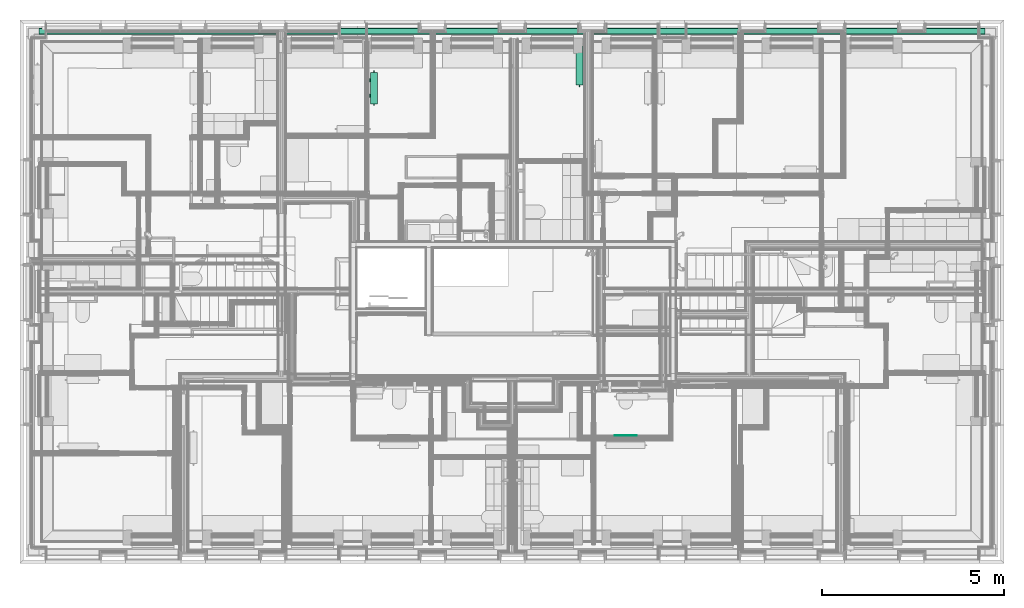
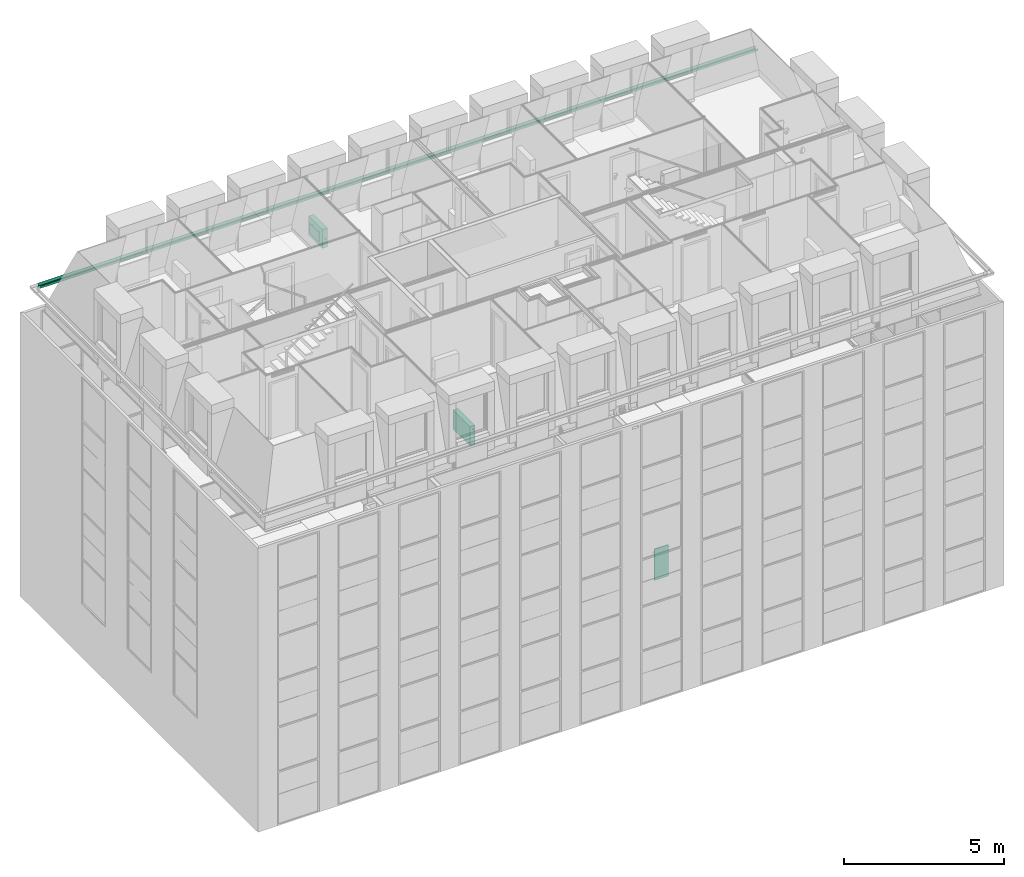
# One storey, part 149 of 169: 3 flow terminals, 1 flow fitting.
"""IFC2X3 building model written with IfcOpenShell, lengths in metres."""

from ifc_helpers import new_model, entity, si_unit, converted_unit, derived_unit, money_unit, direction, frame, origin_with_axes, place, context, subcontext, project, spatial, open_shell, faceted_brep, surface_model, material, type_object, element, save


model = new_model("IFC2X3")

# Units and contexts
model_context = context("Model", 3, precision=1e-05, world=origin_with_axes(), true_north=direction((0.0, 1.0)))
body_context = subcontext(model_context, "Body", "Model", "MODEL_VIEW", scale=1.0)
ifc_project = project(units=[si_unit("LENGTHUNIT", "METRE"), si_unit("AREAUNIT", "SQUARE_METRE"), si_unit("VOLUMEUNIT", "CUBIC_METRE"), si_unit("ABSORBEDDOSEUNIT", "GRAY"), si_unit("AMOUNTOFSUBSTANCEUNIT", "MOLE"), si_unit("DOSEEQUIVALENTUNIT", "SIEVERT"), si_unit("ELECTRICCAPACITANCEUNIT", "FARAD"), si_unit("ELECTRICCHARGEUNIT", "COULOMB"), si_unit("ELECTRICCONDUCTANCEUNIT", "SIEMENS"), si_unit("ELECTRICCURRENTUNIT", "AMPERE"), si_unit("ELECTRICRESISTANCEUNIT", "OHM"), si_unit("ELECTRICVOLTAGEUNIT", "VOLT"), si_unit("ENERGYUNIT", "JOULE"), si_unit("FORCEUNIT", "NEWTON"), si_unit("FREQUENCYUNIT", "HERTZ"), si_unit("ILLUMINANCEUNIT", "LUX"), si_unit("INDUCTANCEUNIT", "HENRY"), si_unit("LUMINOUSFLUXUNIT", "LUMEN"), si_unit("LUMINOUSINTENSITYUNIT", "CANDELA"), si_unit("MAGNETICFLUXDENSITYUNIT", "TESLA"), si_unit("MAGNETICFLUXUNIT", "WEBER"), si_unit("MASSUNIT", "GRAM"), converted_unit("PLANEANGLEUNIT", "degree", entity("IfcReal", 0.0174532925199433), si_unit("PLANEANGLEUNIT", "RADIAN"), dimensions=[0, 0, 0, 0, 0, 0, 0]), si_unit("POWERUNIT", "WATT"), si_unit("PRESSUREUNIT", "PASCAL"), si_unit("RADIOACTIVITYUNIT", "BECQUEREL"), si_unit("SOLIDANGLEUNIT", "STERADIAN"), si_unit("THERMODYNAMICTEMPERATUREUNIT", "KELVIN"), si_unit("TIMEUNIT", "SECOND"), derived_unit("ACCELERATIONUNIT", [(si_unit("LENGTHUNIT", "METRE"), 1), (si_unit("TIMEUNIT", "SECOND"), -2)]), derived_unit("ANGULARVELOCITYUNIT", [(converted_unit("PLANEANGLEUNIT", "degree", entity("IfcReal", 0.0174532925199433), si_unit("PLANEANGLEUNIT", "RADIAN"), dimensions=[0, 0, 0, 0, 0, 0, 0]), 1), (si_unit("TIMEUNIT", "SECOND"), -1)]), derived_unit("CURVATUREUNIT", [(converted_unit("PLANEANGLEUNIT", "degree", entity("IfcReal", 0.0174532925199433), si_unit("PLANEANGLEUNIT", "RADIAN"), dimensions=[0, 0, 0, 0, 0, 0, 0]), 1), (si_unit("LENGTHUNIT", "METRE"), -1)]), derived_unit("DYNAMICVISCOSITYUNIT", [(si_unit("PRESSUREUNIT", "PASCAL"), 1), (si_unit("TIMEUNIT", "SECOND"), 1)]), derived_unit("HEATFLUXDENSITYUNIT", [(si_unit("POWERUNIT", "WATT"), 1), (si_unit("LENGTHUNIT", "METRE"), -2)]), derived_unit("HEATINGVALUEUNIT", [(si_unit("ENERGYUNIT", "JOULE"), 1), (si_unit("MASSUNIT", "GRAM"), -1)]), derived_unit("INTEGERCOUNTRATEUNIT", [(si_unit("TIMEUNIT", "SECOND"), -1)]), derived_unit("IONCONCENTRATIONUNIT", [(si_unit("MASSUNIT", "GRAM"), 1), (si_unit("VOLUMEUNIT", "CUBIC_METRE"), -1)]), derived_unit("ISOTHERMALMOISTURECAPACITYUNIT", [(si_unit("VOLUMEUNIT", "CUBIC_METRE"), 1), (si_unit("MASSUNIT", "GRAM"), -1)]), derived_unit("KINEMATICVISCOSITYUNIT", [(si_unit("AREAUNIT", "SQUARE_METRE"), 1), (si_unit("TIMEUNIT", "SECOND"), -1)]), derived_unit("LINEARFORCEUNIT", [(si_unit("FORCEUNIT", "NEWTON"), 1), (si_unit("LENGTHUNIT", "METRE"), -1)]), derived_unit("LINEARMOMENTUNIT", [(si_unit("FORCEUNIT", "NEWTON"), 1), (si_unit("LENGTHUNIT", "METRE"), -1)]), derived_unit("LINEARSTIFFNESSUNIT", [(si_unit("FORCEUNIT", "NEWTON"), 1), (si_unit("LENGTHUNIT", "METRE"), -1)]), derived_unit("LINEARVELOCITYUNIT", [(si_unit("LENGTHUNIT", "METRE"), 1), (si_unit("TIMEUNIT", "SECOND"), -1)]), derived_unit("LUMINOUSINTENSITYDISTRIBUTIONUNIT", [(si_unit("LUMINOUSINTENSITYUNIT", "CANDELA"), 1), (si_unit("LUMINOUSFLUXUNIT", "LUMEN"), -1)]), derived_unit("MASSDENSITYUNIT", [(si_unit("MASSUNIT", "GRAM"), 1), (si_unit("VOLUMEUNIT", "CUBIC_METRE"), -1)]), derived_unit("MASSFLOWRATEUNIT", [(si_unit("MASSUNIT", "GRAM"), 1), (si_unit("TIMEUNIT", "SECOND"), -1)]), derived_unit("MASSPERLENGTHUNIT", [(si_unit("MASSUNIT", "GRAM"), 1), (si_unit("LENGTHUNIT", "METRE"), -1)]), derived_unit("MODULUSOFELASTICITYUNIT", [(si_unit("FORCEUNIT", "NEWTON"), 1), (si_unit("AREAUNIT", "SQUARE_METRE"), -1)]), derived_unit("MODULUSOFLINEARSUBGRADEREACTIONUNIT", [(si_unit("FORCEUNIT", "NEWTON"), 1), (si_unit("LENGTHUNIT", "METRE"), -2)]), derived_unit("MODULUSOFROTATIONALSUBGRADEREACTIONUNIT", [(si_unit("FORCEUNIT", "NEWTON"), 1), (si_unit("LENGTHUNIT", "METRE"), 1)]), derived_unit("MODULUSOFSUBGRADEREACTIONUNIT", [(si_unit("FORCEUNIT", "NEWTON"), 1), (si_unit("VOLUMEUNIT", "CUBIC_METRE"), -1)]), derived_unit("MOISTUREDIFFUSIVITYUNIT", [(si_unit("VOLUMEUNIT", "CUBIC_METRE"), 1), (si_unit("TIMEUNIT", "SECOND"), -1)]), derived_unit("MOLECULARWEIGHTUNIT", [(si_unit("MASSUNIT", "GRAM"), 1), (si_unit("AMOUNTOFSUBSTANCEUNIT", "MOLE"), -1)]), derived_unit("PLANARFORCEUNIT", [(si_unit("FORCEUNIT", "NEWTON"), 1), (si_unit("LENGTHUNIT", "METRE"), -2)]), derived_unit("ROTATIONALFREQUENCYUNIT", [(si_unit("TIMEUNIT", "SECOND"), -1)]), derived_unit("ROTATIONALMASSUNIT", [(si_unit("MASSUNIT", "GRAM"), 1), (si_unit("LENGTHUNIT", "METRE"), 2)]), derived_unit("ROTATIONALSTIFFNESSUNIT", [(si_unit("FORCEUNIT", "NEWTON"), 1), (si_unit("LENGTHUNIT", "METRE"), 1), (converted_unit("PLANEANGLEUNIT", "degree", entity("IfcReal", 0.0174532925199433), si_unit("PLANEANGLEUNIT", "RADIAN"), dimensions=[0, 0, 0, 0, 0, 0, 0]), -1)]), derived_unit("SECTIONAREAINTEGRALUNIT", [(si_unit("LENGTHUNIT", "METRE"), 5)]), derived_unit("SECTIONMODULUSUNIT", [(si_unit("LENGTHUNIT", "METRE"), 3)]), derived_unit("SHEARMODULUSUNIT", [(si_unit("FORCEUNIT", "NEWTON"), 1), (si_unit("AREAUNIT", "SQUARE_METRE"), -1)]), derived_unit("SOUNDPOWERUNIT", [(si_unit("ENERGYUNIT", "JOULE"), 1), (si_unit("TIMEUNIT", "SECOND"), -1)]), derived_unit("SPECIFICHEATCAPACITYUNIT", [(si_unit("FORCEUNIT", "NEWTON"), 1), (si_unit("MASSUNIT", "GRAM"), -1), (si_unit("THERMODYNAMICTEMPERATUREUNIT", "KELVIN"), -1)]), derived_unit("TEMPERATUREGRADIENTUNIT", [(si_unit("THERMODYNAMICTEMPERATUREUNIT", "KELVIN"), 1), (si_unit("LENGTHUNIT", "METRE"), -1)]), derived_unit("THERMALADMITTANCEUNIT", [(si_unit("POWERUNIT", "WATT"), 1), (si_unit("AREAUNIT", "SQUARE_METRE"), -1), (si_unit("THERMODYNAMICTEMPERATUREUNIT", "KELVIN"), -1)]), derived_unit("THERMALCONDUCTANCEUNIT", [(si_unit("POWERUNIT", "WATT"), 1), (si_unit("LENGTHUNIT", "METRE"), -1), (si_unit("THERMODYNAMICTEMPERATUREUNIT", "KELVIN"), -1)]), derived_unit("THERMALEXPANSIONCOEFFICIENTUNIT", [(si_unit("THERMODYNAMICTEMPERATUREUNIT", "KELVIN"), -1)]), derived_unit("THERMALRESISTANCEUNIT", [(si_unit("AREAUNIT", "SQUARE_METRE"), 1), (si_unit("POWERUNIT", "WATT"), -1)]), derived_unit("THERMALTRANSMITTANCEUNIT", [(si_unit("POWERUNIT", "WATT"), 1), (si_unit("AREAUNIT", "SQUARE_METRE"), -1), (si_unit("THERMODYNAMICTEMPERATUREUNIT", "KELVIN"), -1)]), derived_unit("TORQUEUNIT", [(si_unit("FORCEUNIT", "NEWTON"), 1), (si_unit("LENGTHUNIT", "METRE"), 1)]), derived_unit("VAPORPERMEABILITYUNIT", [(si_unit("MASSUNIT", "GRAM"), 1), (si_unit("TIMEUNIT", "SECOND"), -1)]), derived_unit("VOLUMETRICFLOWRATEUNIT", [(si_unit("VOLUMEUNIT", "CUBIC_METRE"), 1), (si_unit("TIMEUNIT", "SECOND"), -1)]), derived_unit("WARPINGCONSTANTUNIT", [(si_unit("LENGTHUNIT", "METRE"), 6)]), derived_unit("WARPINGMOMENTUNIT", [(si_unit("FORCEUNIT", "NEWTON"), 1), (si_unit("LENGTHUNIT", "METRE"), 2)]), money_unit("GBP")], contexts=[model_context])

# Site, building, storey
site_placement = place(None, origin_with_axes())
site = spatial("IfcSite", under=ifc_project, at=site_placement, Name="Site", CompositionType="ELEMENT")
building_placement = place(site_placement, origin_with_axes())
building = spatial("IfcBuilding", under=site, at=building_placement, Name="Building01", CompositionType="ELEMENT")
storey_placement = place(building_placement, frame((0.0, 0.0, 5.15), z_axis=(0.0, 0.0, 1.0), x_axis=(1.0, 0.0, 0.0)))
storey = spatial("IfcBuildingStorey", under=building, at=storey_placement, Name="1F", CompositionType="ELEMENT", Elevation=5.15)

# Flow fitting
ifc_material_1 = material(Name="A_BSUK_RainwaterDrainageSystems")
pipe_fitting_type = type_object("IfcPipeFittingType", Name="A-RainwaterDrainageSystems-GutterStraight", PredefinedType="NOTDEFINED")
flow_fitting_placement = place(storey_placement, frame((0.514653, 14.496848, 10.629268), z_axis=(0.0, 0.0, 1.0), x_axis=(1.0, 0.0, 0.0)))
element("IfcFlowFitting", 1, at=flow_fitting_placement, inside=storey, type_object=pipe_fitting_type, material=ifc_material_1, Name="A-RainwaterDrainageSystems-GutterStraight", ObjectType="A-RainwaterDrainageSystems-GutterStraight", context=body_context, shape_type="Brep", body=[
    faceted_brep([(25.951001, 0.0, 0.100732), (1e-06, 0.0, 0.100732), (1e-06, 0.0, 0.099144), (25.951001, 0.0, 0.099145), (25.951001, 0.005654, 0.099145), (1e-06, 0.005654, 0.099144), (1e-06, 0.018707, 0.0), (25.951001, 0.018707, 0.0), (1e-06, 0.170099, 0.0), (25.951001, 0.170099, 0.0), (1e-06, 0.183152, 0.099144), (25.951001, 0.183152, 0.099145), (1e-06, 0.188806, 0.099144), (25.951001, 0.188806, 0.099145), (1e-06, 0.188806, 0.100732), (25.951001, 0.188806, 0.100732), (1e-06, 0.18176, 0.100732), (25.951001, 0.18176, 0.100732), (1e-06, 0.168707, 0.001588), (25.951001, 0.168707, 0.001588), (1e-06, 0.020099, 0.001588), (25.951001, 0.020099, 0.001588), (1e-06, 0.007047, 0.100732), (25.951001, 0.007047, 0.100732)], [[[0, 1, 2, 3]], [[4, 5, 6, 7]], [[7, 6, 8, 9]], [[9, 8, 10, 11]], [[11, 10, 12, 13]], [[13, 12, 14, 15]], [[15, 14, 16, 17]], [[17, 16, 18, 19]], [[19, 18, 20, 21]], [[21, 20, 22, 23]], [[23, 22, 1, 0]], [[3, 4, 7, 9, 11, 13, 15, 17, 19, 21, 23, 0]], [[3, 2, 5, 4]], [[1, 22, 20, 18, 16, 14, 12, 10, 8, 6, 5, 2]]]),
])

# Space
space_1_placement = place(storey_placement, frame((11.375, 10.415, 0.017975), z_axis=(0.0, 0.0, 1.0), x_axis=(1.0, 0.0, 0.0)))
space_1 = spatial("IfcSpace", under=storey, at=space_1_placement, Name="k/d/l", CompositionType="ELEMENT", InteriorOrExteriorSpace="NOTDEFINED")

# Flow terminal
ifc_material_2 = material(Name="M_BSUK_Ventilation")
space_heater_type_1 = type_object("IfcSpaceHeaterType", Name="M-BmvRadiatorpanel-Panel", PredefinedType="NOTDEFINED")
flow_terminal_1_placement = place(storey_placement, frame((15.337882, 14.187, 0.665), z_axis=(0.0, 0.0, 1.0), x_axis=(0.0, -1.0, 0.0)))
element("IfcFlowTerminal", 2, at=flow_terminal_1_placement, inside=space_1, type_object=space_heater_type_1, material=ifc_material_2, Name="M-BmvRadiatorpanel-Panel", ObjectType="M-BmvRadiatorpanel-Panel", context=body_context, shape_type="SurfaceModel", body=[
    surface_model("IfcShellBasedSurfaceModel", [(1.069, -0.0925, 0.365), (1.069, 0.0925, 0.365), (0.0, 0.0925, 0.365), (0.0, -0.0925, 0.365), (1.069, -0.0925, -0.365), (1.069, 0.0925, -0.365), (0.0, -0.0925, -0.365), (0.0, 0.0925, -0.365), (0.2345, 0.12025, 0.175), (0.8345, 0.12025, 0.175), (0.8345, 0.14525, 0.175), (0.2345, 0.14525, 0.175), (0.8345, 0.14525, -0.175), (0.2345, 0.14525, -0.175), (0.8345, 0.12025, -0.175), (0.2345, 0.12025, -0.175), (0.3245, 0.0925, 0.0775), (0.3245, 0.12025, 0.0775), (0.341721, 0.12025, 0.080925), (0.341721, 0.0925, 0.080925), (0.35632, 0.12025, 0.09068), (0.35632, 0.0925, 0.09068), (0.366075, 0.12025, 0.105279), (0.366075, 0.0925, 0.105279), (0.3695, 0.12025, 0.1225), (0.3695, 0.0925, 0.1225), (0.366075, 0.12025, 0.139721), (0.366075, 0.0925, 0.139721), (0.35632, 0.12025, 0.15432), (0.35632, 0.0925, 0.15432), (0.341721, 0.12025, 0.164075), (0.341721, 0.0925, 0.164075), (0.3245, 0.12025, 0.1675), (0.3245, 0.0925, 0.1675), (0.307279, 0.12025, 0.164075), (0.307279, 0.0925, 0.164075), (0.29268, 0.12025, 0.15432), (0.29268, 0.0925, 0.15432), (0.282925, 0.12025, 0.139721), (0.282925, 0.0925, 0.139721), (0.2795, 0.12025, 0.1225), (0.2795, 0.0925, 0.1225), (0.282925, 0.12025, 0.105279), (0.282925, 0.0925, 0.105279), (0.29268, 0.12025, 0.09068), (0.29268, 0.0925, 0.09068), (0.307279, 0.12025, 0.080925), (0.307279, 0.0925, 0.080925), (0.7445, 0.0925, 0.0775), (0.7445, 0.12025, 0.0775), (0.761721, 0.12025, 0.080925), (0.761721, 0.0925, 0.080925), (0.77632, 0.12025, 0.09068), (0.77632, 0.0925, 0.09068), (0.786075, 0.12025, 0.105279), (0.786075, 0.0925, 0.105279), (0.7895, 0.12025, 0.1225), (0.7895, 0.0925, 0.1225), (0.786075, 0.12025, 0.139721), (0.786075, 0.0925, 0.139721), (0.77632, 0.12025, 0.15432), (0.77632, 0.0925, 0.15432), (0.761721, 0.12025, 0.164075), (0.761721, 0.0925, 0.164075), (0.7445, 0.12025, 0.1675), (0.7445, 0.0925, 0.1675), (0.727279, 0.12025, 0.164075), (0.727279, 0.0925, 0.164075), (0.71268, 0.12025, 0.15432), (0.71268, 0.0925, 0.15432), (0.702925, 0.12025, 0.139721), (0.702925, 0.0925, 0.139721), (0.6995, 0.12025, 0.1225), (0.6995, 0.0925, 0.1225), (0.702925, 0.12025, 0.105279), (0.702925, 0.0925, 0.105279), (0.71268, 0.12025, 0.09068), (0.71268, 0.0925, 0.09068), (0.727279, 0.12025, 0.080925), (0.727279, 0.0925, 0.080925), (-0.05, 0.0, -0.0225), (0.0, 0.0, -0.0225), (0.0, -0.004784, -0.021548), (-0.05, -0.004784, -0.021548), (0.0, -0.008839, -0.018839), (-0.05, -0.008839, -0.018839), (0.0, -0.011548, -0.014784), (-0.05, -0.011548, -0.014784), (0.0, -0.0125, -0.01), (-0.05, -0.0125, -0.01), (0.0, -0.011548, -0.005216), (-0.05, -0.011548, -0.005216), (0.0, -0.008839, -0.001161), (-0.05, -0.008839, -0.001161), (0.0, -0.004784, 0.001548), (-0.05, -0.004784, 0.001548), (0.0, 0.0, 0.0025), (-0.05, 0.0, 0.0025), (0.0, 0.004784, 0.001548), (-0.05, 0.004784, 0.001548), (0.0, 0.008839, -0.001161), (-0.05, 0.008839, -0.001161), (0.0, 0.011548, -0.005216), (-0.05, 0.011548, -0.005216), (0.0, 0.0125, -0.01), (-0.05, 0.0125, -0.01), (0.0, 0.011548, -0.014784), (-0.05, 0.011548, -0.014784), (0.0, 0.008839, -0.018839), (-0.05, 0.008839, -0.018839), (0.0, 0.004784, -0.021548), (-0.05, 0.004784, -0.021548), (1.119, 0.0, 0.2525), (1.069, 0.0, 0.2525), (1.069, 0.004784, 0.253452), (1.119, 0.004784, 0.253452), (1.069, 0.008839, 0.256161), (1.119, 0.008839, 0.256161), (1.069, 0.011548, 0.260216), (1.119, 0.011548, 0.260216), (1.069, 0.0125, 0.265), (1.119, 0.0125, 0.265), (1.069, 0.011548, 0.269784), (1.119, 0.011548, 0.269784), (1.069, 0.008839, 0.273839), (1.119, 0.008839, 0.273839), (1.069, 0.004784, 0.276548), (1.119, 0.004784, 0.276548), (1.069, 0.0, 0.2775), (1.119, 0.0, 0.2775), (1.069, -0.004784, 0.276548), (1.119, -0.004784, 0.276548), (1.069, -0.008839, 0.273839), (1.119, -0.008839, 0.273839), (1.069, -0.011548, 0.269784), (1.119, -0.011548, 0.269784), (1.069, -0.0125, 0.265), (1.119, -0.0125, 0.265), (1.069, -0.011548, 0.260216), (1.119, -0.011548, 0.260216), (1.069, -0.008839, 0.256161), (1.119, -0.008839, 0.256161), (1.069, -0.004784, 0.253452), (1.119, -0.004784, 0.253452)], [open_shell([[[0, 1, 2, 3]], [[4, 5, 1, 0]], [[6, 7, 5, 4]], [[3, 2, 7, 6]], [[1, 5, 7, 2]], [[3, 6, 4, 0]], [[8, 9, 10, 11]], [[11, 10, 12, 13]], [[13, 12, 14, 15]], [[15, 14, 9, 8]], [[9, 14, 12, 10]], [[11, 13, 15, 8]], [[16, 17, 18, 19]], [[19, 18, 20, 21]], [[21, 20, 22, 23]], [[23, 22, 24, 25]], [[25, 24, 26, 27]], [[27, 26, 28, 29]], [[29, 28, 30, 31]], [[31, 30, 32, 33]], [[33, 32, 34, 35]], [[35, 34, 36, 37]], [[37, 36, 38, 39]], [[39, 38, 40, 41]], [[41, 40, 42, 43]], [[43, 42, 44, 45]], [[45, 44, 46, 47]], [[47, 46, 17, 16]], [[48, 49, 50, 51]], [[51, 50, 52, 53]], [[53, 52, 54, 55]], [[55, 54, 56, 57]], [[57, 56, 58, 59]], [[59, 58, 60, 61]], [[61, 60, 62, 63]], [[63, 62, 64, 65]], [[65, 64, 66, 67]], [[67, 66, 68, 69]], [[69, 68, 70, 71]], [[71, 70, 72, 73]], [[73, 72, 74, 75]], [[75, 74, 76, 77]], [[77, 76, 78, 79]], [[79, 78, 49, 48]], [[80, 81, 82, 83]], [[83, 82, 84, 85]], [[85, 84, 86, 87]], [[87, 86, 88, 89]], [[89, 88, 90, 91]], [[91, 90, 92, 93]], [[93, 92, 94, 95]], [[95, 94, 96, 97]], [[97, 96, 98, 99]], [[99, 98, 100, 101]], [[101, 100, 102, 103]], [[103, 102, 104, 105]], [[105, 104, 106, 107]], [[107, 106, 108, 109]], [[109, 108, 110, 111]], [[111, 110, 81, 80]], [[112, 113, 114, 115]], [[115, 114, 116, 117]], [[117, 116, 118, 119]], [[119, 118, 120, 121]], [[121, 120, 122, 123]], [[123, 122, 124, 125]], [[125, 124, 126, 127]], [[127, 126, 128, 129]], [[129, 128, 130, 131]], [[131, 130, 132, 133]], [[133, 132, 134, 135]], [[135, 134, 136, 137]], [[137, 136, 138, 139]], [[139, 138, 140, 141]], [[141, 140, 142, 143]], [[143, 142, 113, 112]]])]),
])

# Space
space_2_placement = place(storey_placement, frame((1.009939, 13.890379, 9.86), z_axis=(0.0, 0.0, 1.0), x_axis=(0.0, -1.0, 0.0)))
space_2 = spatial("IfcSpace", under=storey, at=space_2_placement, Name="26", CompositionType="ELEMENT", InteriorOrExteriorSpace="NOTDEFINED")

# Flow terminal
flow_terminal_2_placement = place(storey_placement, frame((9.705274, 12.601764, 10.495), z_axis=(0.0, 0.0, 1.0), x_axis=(0.0, 1.0, 0.0)))
element("IfcFlowTerminal", 3, at=flow_terminal_2_placement, inside=space_2, type_object=space_heater_type_1, material=ifc_material_2, Name="M-BmvRadiatorpanel-Panel", ObjectType="M-BmvRadiatorpanel-Panel", context=body_context, shape_type="SurfaceModel", body=[
    surface_model("IfcShellBasedSurfaceModel", [(0.865, -0.0925, 0.365), (0.865, 0.0925, 0.365), (0.0, 0.0925, 0.365), (0.0, -0.0925, 0.365), (0.865, -0.0925, -0.365), (0.865, 0.0925, -0.365), (0.0, -0.0925, -0.365), (0.0, 0.0925, -0.365), (0.1325, 0.12025, 0.175), (0.7325, 0.12025, 0.175), (0.7325, 0.14525, 0.175), (0.1325, 0.14525, 0.175), (0.7325, 0.14525, -0.175), (0.1325, 0.14525, -0.175), (0.7325, 0.12025, -0.175), (0.1325, 0.12025, -0.175), (0.2225, 0.0925, 0.0775), (0.2225, 0.12025, 0.0775), (0.239721, 0.12025, 0.080925), (0.239721, 0.0925, 0.080925), (0.25432, 0.12025, 0.09068), (0.25432, 0.0925, 0.09068), (0.264075, 0.12025, 0.105279), (0.264075, 0.0925, 0.105279), (0.2675, 0.12025, 0.1225), (0.2675, 0.0925, 0.1225), (0.264075, 0.12025, 0.139721), (0.264075, 0.0925, 0.139721), (0.25432, 0.12025, 0.15432), (0.25432, 0.0925, 0.15432), (0.239721, 0.12025, 0.164075), (0.239721, 0.0925, 0.164075), (0.2225, 0.12025, 0.1675), (0.2225, 0.0925, 0.1675), (0.205279, 0.12025, 0.164075), (0.205279, 0.0925, 0.164075), (0.19068, 0.12025, 0.15432), (0.19068, 0.0925, 0.15432), (0.180925, 0.12025, 0.139721), (0.180925, 0.0925, 0.139721), (0.1775, 0.12025, 0.1225), (0.1775, 0.0925, 0.1225), (0.180925, 0.12025, 0.105279), (0.180925, 0.0925, 0.105279), (0.19068, 0.12025, 0.09068), (0.19068, 0.0925, 0.09068), (0.205279, 0.12025, 0.080925), (0.205279, 0.0925, 0.080925), (0.6425, 0.0925, 0.0775), (0.6425, 0.12025, 0.0775), (0.659721, 0.12025, 0.080925), (0.659721, 0.0925, 0.080925), (0.67432, 0.12025, 0.09068), (0.67432, 0.0925, 0.09068), (0.684075, 0.12025, 0.105279), (0.684075, 0.0925, 0.105279), (0.6875, 0.12025, 0.1225), (0.6875, 0.0925, 0.1225), (0.684075, 0.12025, 0.139721), (0.684075, 0.0925, 0.139721), (0.67432, 0.12025, 0.15432), (0.67432, 0.0925, 0.15432), (0.659721, 0.12025, 0.164075), (0.659721, 0.0925, 0.164075), (0.6425, 0.12025, 0.1675), (0.6425, 0.0925, 0.1675), (0.625279, 0.12025, 0.164075), (0.625279, 0.0925, 0.164075), (0.61068, 0.12025, 0.15432), (0.61068, 0.0925, 0.15432), (0.600925, 0.12025, 0.139721), (0.600925, 0.0925, 0.139721), (0.5975, 0.12025, 0.1225), (0.5975, 0.0925, 0.1225), (0.600925, 0.12025, 0.105279), (0.600925, 0.0925, 0.105279), (0.61068, 0.12025, 0.09068), (0.61068, 0.0925, 0.09068), (0.625279, 0.12025, 0.080925), (0.625279, 0.0925, 0.080925), (-0.05, 0.0, -0.0225), (0.0, 0.0, -0.0225), (0.0, -0.004784, -0.021548), (-0.05, -0.004784, -0.021548), (0.0, -0.008839, -0.018839), (-0.05, -0.008839, -0.018839), (0.0, -0.011548, -0.014784), (-0.05, -0.011548, -0.014784), (0.0, -0.0125, -0.01), (-0.05, -0.0125, -0.01), (0.0, -0.011548, -0.005216), (-0.05, -0.011548, -0.005216), (0.0, -0.008839, -0.001161), (-0.05, -0.008839, -0.001161), (0.0, -0.004784, 0.001548), (-0.05, -0.004784, 0.001548), (0.0, 0.0, 0.0025), (-0.05, 0.0, 0.0025), (0.0, 0.004784, 0.001548), (-0.05, 0.004784, 0.001548), (0.0, 0.008839, -0.001161), (-0.05, 0.008839, -0.001161), (0.0, 0.011548, -0.005216), (-0.05, 0.011548, -0.005216), (0.0, 0.0125, -0.01), (-0.05, 0.0125, -0.01), (0.0, 0.011548, -0.014784), (-0.05, 0.011548, -0.014784), (0.0, 0.008839, -0.018839), (-0.05, 0.008839, -0.018839), (0.0, 0.004784, -0.021548), (-0.05, 0.004784, -0.021548), (0.915, 0.0, 0.2525), (0.865, 0.0, 0.2525), (0.865, 0.004784, 0.253452), (0.915, 0.004784, 0.253452), (0.865, 0.008839, 0.256161), (0.915, 0.008839, 0.256161), (0.865, 0.011548, 0.260216), (0.915, 0.011548, 0.260216), (0.865, 0.0125, 0.265), (0.915, 0.0125, 0.265), (0.865, 0.011548, 0.269784), (0.915, 0.011548, 0.269784), (0.865, 0.008839, 0.273839), (0.915, 0.008839, 0.273839), (0.865, 0.004784, 0.276548), (0.915, 0.004784, 0.276548), (0.865, 0.0, 0.2775), (0.915, 0.0, 0.2775), (0.865, -0.004784, 0.276548), (0.915, -0.004784, 0.276548), (0.865, -0.008839, 0.273839), (0.915, -0.008839, 0.273839), (0.865, -0.011548, 0.269784), (0.915, -0.011548, 0.269784), (0.865, -0.0125, 0.265), (0.915, -0.0125, 0.265), (0.865, -0.011548, 0.260216), (0.915, -0.011548, 0.260216), (0.865, -0.008839, 0.256161), (0.915, -0.008839, 0.256161), (0.865, -0.004784, 0.253452), (0.915, -0.004784, 0.253452)], [open_shell([[[0, 1, 2, 3]], [[4, 5, 1, 0]], [[6, 7, 5, 4]], [[3, 2, 7, 6]], [[1, 5, 7, 2]], [[3, 6, 4, 0]], [[8, 9, 10, 11]], [[11, 10, 12, 13]], [[13, 12, 14, 15]], [[15, 14, 9, 8]], [[9, 14, 12, 10]], [[11, 13, 15, 8]], [[16, 17, 18, 19]], [[19, 18, 20, 21]], [[21, 20, 22, 23]], [[23, 22, 24, 25]], [[25, 24, 26, 27]], [[27, 26, 28, 29]], [[29, 28, 30, 31]], [[31, 30, 32, 33]], [[33, 32, 34, 35]], [[35, 34, 36, 37]], [[37, 36, 38, 39]], [[39, 38, 40, 41]], [[41, 40, 42, 43]], [[43, 42, 44, 45]], [[45, 44, 46, 47]], [[47, 46, 17, 16]], [[48, 49, 50, 51]], [[51, 50, 52, 53]], [[53, 52, 54, 55]], [[55, 54, 56, 57]], [[57, 56, 58, 59]], [[59, 58, 60, 61]], [[61, 60, 62, 63]], [[63, 62, 64, 65]], [[65, 64, 66, 67]], [[67, 66, 68, 69]], [[69, 68, 70, 71]], [[71, 70, 72, 73]], [[73, 72, 74, 75]], [[75, 74, 76, 77]], [[77, 76, 78, 79]], [[79, 78, 49, 48]], [[80, 81, 82, 83]], [[83, 82, 84, 85]], [[85, 84, 86, 87]], [[87, 86, 88, 89]], [[89, 88, 90, 91]], [[91, 90, 92, 93]], [[93, 92, 94, 95]], [[95, 94, 96, 97]], [[97, 96, 98, 99]], [[99, 98, 100, 101]], [[101, 100, 102, 103]], [[103, 102, 104, 105]], [[105, 104, 106, 107]], [[107, 106, 108, 109]], [[109, 108, 110, 111]], [[111, 110, 81, 80]], [[112, 113, 114, 115]], [[115, 114, 116, 117]], [[117, 116, 118, 119]], [[119, 118, 120, 121]], [[121, 120, 122, 123]], [[123, 122, 124, 125]], [[125, 124, 126, 127]], [[127, 126, 128, 129]], [[129, 128, 130, 131]], [[131, 130, 132, 133]], [[133, 132, 134, 135]], [[135, 134, 136, 137]], [[137, 136, 138, 139]], [[139, 138, 140, 141]], [[141, 140, 142, 143]], [[143, 142, 113, 112]]])]),
])

# Space
space_3_placement = place(storey_placement, frame((17.8075, 4.98, 0.017975), z_axis=(0.0, 0.0, 1.0), x_axis=(-1.0, 0.0, 0.0)))
space_3 = spatial("IfcSpace", under=storey, at=space_3_placement, Name="bath", CompositionType="ELEMENT", InteriorOrExteriorSpace="NOTDEFINED")

# Flow terminal
space_heater_type_2 = type_object("IfcSpaceHeaterType", Name="M-BmvRadiator-Column", PredefinedType="NOTDEFINED")
flow_terminal_3_placement = place(storey_placement, frame((16.3575, 3.5075, 1.2), z_axis=(0.0, 0.0, 1.0), x_axis=(1.0, 0.0, 0.0)))
element("IfcFlowTerminal", 4, at=flow_terminal_3_placement, inside=space_3, type_object=space_heater_type_2, material=ifc_material_2, Name="M-BmvRadiator-Column", ObjectType="M-BmvRadiator-Column", context=body_context, shape_type="SurfaceModel", body=[
    surface_model("IfcShellBasedSurfaceModel", [(0.0, -0.0125, 0.6), (0.0, -0.0125, -0.6), (0.0, 0.0125, -0.6), (0.0, 0.0125, 0.6), (0.5, -0.0125, 0.6), (0.5, -0.0125, -0.6), (0.5, 0.0125, -0.6), (0.5, 0.0125, 0.6), (0.1, 0.0125, 0.6), (0.1, -0.0125, 0.6), (0.1, -0.0125, -0.6), (0.1, 0.0125, -0.6), (0.2, 0.0125, 0.6), (0.2, -0.0125, 0.6), (0.2, -0.0125, -0.6), (0.2, 0.0125, -0.6), (0.3, 0.0125, 0.6), (0.3, -0.0125, 0.6), (0.3, -0.0125, -0.6), (0.3, 0.0125, -0.6), (0.4, 0.0125, 0.6), (0.4, -0.0125, 0.6), (0.4, -0.0125, -0.6), (0.4, 0.0125, -0.6), (-0.05, 0.0, 0.4825), (0.0, 0.0, 0.4825), (0.0, -0.003827, 0.483261), (-0.05, -0.003827, 0.483261), (0.0, -0.007071, 0.485429), (-0.05, -0.007071, 0.485429), (0.0, -0.009239, 0.488673), (-0.05, -0.009239, 0.488673), (0.0, -0.01, 0.4925), (-0.05, -0.01, 0.4925), (0.0, -0.009239, 0.496327), (-0.05, -0.009239, 0.496327), (0.0, -0.007071, 0.499571), (-0.05, -0.007071, 0.499571), (0.0, -0.003827, 0.501739), (-0.05, -0.003827, 0.501739), (0.0, 0.0, 0.5025), (-0.05, 0.0, 0.5025), (0.0, 0.003827, 0.501739), (-0.05, 0.003827, 0.501739), (0.0, 0.007071, 0.499571), (-0.05, 0.007071, 0.499571), (0.0, 0.009239, 0.496327), (-0.05, 0.009239, 0.496327), (0.0, 0.01, 0.4925), (-0.05, 0.01, 0.4925), (0.0, 0.009239, 0.488673), (-0.05, 0.009239, 0.488673), (0.0, 0.007071, 0.485429), (-0.05, 0.007071, 0.485429), (0.0, 0.003827, 0.483261), (-0.05, 0.003827, 0.483261), (0.55, 0.0, 0.4884), (0.5, 0.0, 0.4884), (0.5, 0.003827, 0.489161), (0.55, 0.003827, 0.489161), (0.5, 0.007071, 0.491329), (0.55, 0.007071, 0.491329), (0.5, 0.009239, 0.494573), (0.55, 0.009239, 0.494573), (0.5, 0.01, 0.4984), (0.55, 0.01, 0.4984), (0.5, 0.009239, 0.502227), (0.55, 0.009239, 0.502227), (0.5, 0.007071, 0.505471), (0.55, 0.007071, 0.505471), (0.5, 0.003827, 0.507639), (0.55, 0.003827, 0.507639), (0.5, 0.0, 0.5084), (0.55, 0.0, 0.5084), (0.5, -0.003827, 0.507639), (0.55, -0.003827, 0.507639), (0.5, -0.007071, 0.505471), (0.55, -0.007071, 0.505471), (0.5, -0.009239, 0.502227), (0.55, -0.009239, 0.502227), (0.5, -0.01, 0.4984), (0.55, -0.01, 0.4984), (0.5, -0.009239, 0.494573), (0.55, -0.009239, 0.494573), (0.5, -0.007071, 0.491329), (0.55, -0.007071, 0.491329), (0.5, -0.003827, 0.489161), (0.55, -0.003827, 0.489161)], [open_shell([[[0, 1, 2, 3]], [[4, 5, 6, 7]], [[8, 3, 0, 9]], [[9, 0, 1, 10]], [[10, 1, 2, 11]], [[11, 2, 3, 8]], [[12, 8, 9, 13]], [[13, 9, 10, 14]], [[14, 10, 11, 15]], [[15, 11, 8, 12]], [[16, 12, 13, 17]], [[17, 13, 14, 18]], [[18, 14, 15, 19]], [[19, 15, 12, 16]], [[20, 16, 17, 21]], [[21, 17, 18, 22]], [[22, 18, 19, 23]], [[23, 19, 16, 20]], [[7, 20, 21, 4]], [[4, 21, 22, 5]], [[5, 22, 23, 6]], [[6, 23, 20, 7]], [[24, 25, 26, 27]], [[27, 26, 28, 29]], [[29, 28, 30, 31]], [[31, 30, 32, 33]], [[33, 32, 34, 35]], [[35, 34, 36, 37]], [[37, 36, 38, 39]], [[39, 38, 40, 41]], [[41, 40, 42, 43]], [[43, 42, 44, 45]], [[45, 44, 46, 47]], [[47, 46, 48, 49]], [[49, 48, 50, 51]], [[51, 50, 52, 53]], [[53, 52, 54, 55]], [[55, 54, 25, 24]], [[56, 57, 58, 59]], [[59, 58, 60, 61]], [[61, 60, 62, 63]], [[63, 62, 64, 65]], [[65, 64, 66, 67]], [[67, 66, 68, 69]], [[69, 68, 70, 71]], [[71, 70, 72, 73]], [[73, 72, 74, 75]], [[75, 74, 76, 77]], [[77, 76, 78, 79]], [[79, 78, 80, 81]], [[81, 80, 82, 83]], [[83, 82, 84, 85]], [[85, 84, 86, 87]], [[87, 86, 57, 56]]])]),
])

save(model, "model.ifc")
